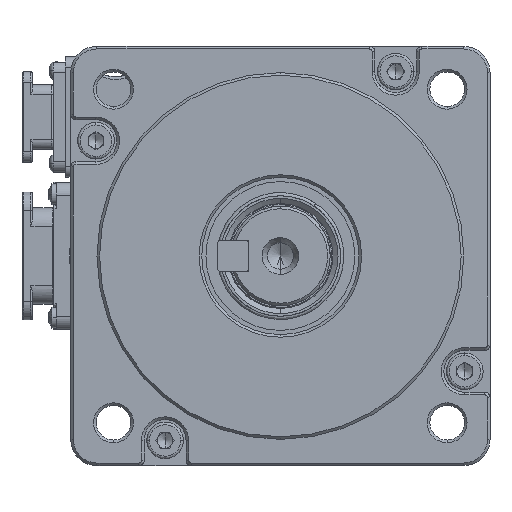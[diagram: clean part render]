
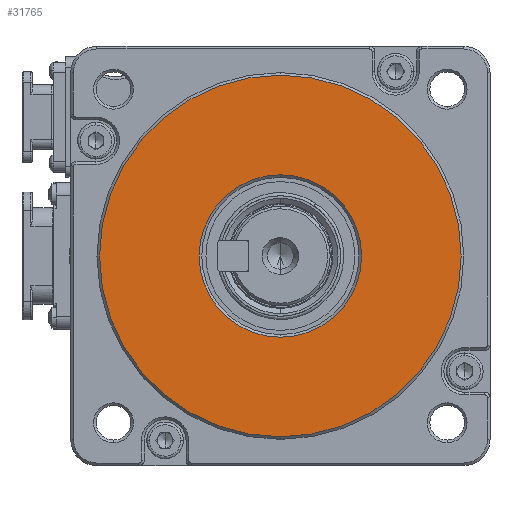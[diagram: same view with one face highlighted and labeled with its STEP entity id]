
A CAD part, left-side view. The second image highlights one B-rep face of the part: STEP entity #31765.
In plain terms, the highlighted planar face has unit normal (-1, 0, 0).
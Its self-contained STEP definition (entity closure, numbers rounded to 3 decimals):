
#2418 = AXIS2_PLACEMENT_3D ( 'NONE', #71850, #107150, #5676 ) ;
#5676 = DIRECTION ( 'NONE',  ( 0., 0., -1. ) ) ;
#5739 = ORIENTED_EDGE ( 'NONE', *, *, #19466, .T. ) ;
#10651 = FACE_OUTER_BOUND ( 'NONE', #23754, .T. ) ;
#11459 = DIRECTION ( 'NONE',  ( 1., 0., 0. ) ) ;
#11888 = CARTESIAN_POINT ( 'NONE',  ( -68.078, 0.916, 130.669 ) ) ;
#11993 = CARTESIAN_POINT ( 'NONE',  ( -68.078, 0.916, 180.669 ) ) ;
#12311 = EDGE_CURVE ( 'NONE', #59376, #46456, #44220, .T. ) ;
#15903 = DIRECTION ( 'NONE',  ( 0., 0., -1. ) ) ;
#19466 = EDGE_CURVE ( 'NONE', #28553, #60050, #24107, .T. ) ;
#20279 = DIRECTION ( 'NONE',  ( 0., 0., 1. ) ) ;
#21116 = FACE_BOUND ( 'NONE', #95276, .T. ) ;
#23012 = DIRECTION ( 'NONE',  ( 1., 0., 0. ) ) ;
#23754 = EDGE_LOOP ( 'NONE', ( #82132, #69776 ) ) ;
#24107 = CIRCLE ( 'NONE', #75075, 15.5 ) ;
#27749 = DIRECTION ( 'NONE',  ( -1., 0., 0. ) ) ;
#28553 = VERTEX_POINT ( 'NONE', #11993 ) ;
#31765 = ADVANCED_FACE ( 'NONE', ( #10651, #21116 ), #77922, .T. ) ;
#32483 = EDGE_CURVE ( 'NONE', #46456, #59376, #102791, .T. ) ;
#38115 = EDGE_CURVE ( 'NONE', #60050, #28553, #71768, .T. ) ;
#44220 = CIRCLE ( 'NONE', #95293, 34.5 ) ;
#46456 = VERTEX_POINT ( 'NONE', #11888 ) ;
#47142 = AXIS2_PLACEMENT_3D ( 'NONE', #100166, #23012, #83626 ) ;
#49481 = DIRECTION ( 'NONE',  ( 1., 0., 0. ) ) ;
#49983 = ORIENTED_EDGE ( 'NONE', *, *, #38115, .T. ) ;
#59376 = VERTEX_POINT ( 'NONE', #73671 ) ;
#60050 = VERTEX_POINT ( 'NONE', #103370 ) ;
#61384 = DIRECTION ( 'NONE',  ( 0., 0., 1. ) ) ;
#69776 = ORIENTED_EDGE ( 'NONE', *, *, #12311, .F. ) ;
#71768 = CIRCLE ( 'NONE', #47142, 15.5 ) ;
#71850 = CARTESIAN_POINT ( 'NONE',  ( -68.078, 0.916, 165.169 ) ) ;
#73671 = CARTESIAN_POINT ( 'NONE',  ( -68.078, 0.916, 199.669 ) ) ;
#75075 = AXIS2_PLACEMENT_3D ( 'NONE', #86999, #11459, #20279 ) ;
#77922 = PLANE ( 'NONE',  #104622 ) ;
#82132 = ORIENTED_EDGE ( 'NONE', *, *, #32483, .F. ) ;
#83626 = DIRECTION ( 'NONE',  ( 0., 0., 1. ) ) ;
#86999 = CARTESIAN_POINT ( 'NONE',  ( -68.078, 0.916, 165.169 ) ) ;
#91413 = CARTESIAN_POINT ( 'NONE',  ( -68.078, 0.916, 165.169 ) ) ;
#95276 = EDGE_LOOP ( 'NONE', ( #5739, #49983 ) ) ;
#95293 = AXIS2_PLACEMENT_3D ( 'NONE', #91413, #49481, #15903 ) ;
#100166 = CARTESIAN_POINT ( 'NONE',  ( -68.078, 0.916, 165.169 ) ) ;
#102791 = CIRCLE ( 'NONE', #2418, 34.5 ) ;
#103290 = CARTESIAN_POINT ( 'NONE',  ( -68.078, 0.916, 165.169 ) ) ;
#103370 = CARTESIAN_POINT ( 'NONE',  ( -68.078, 0.916, 149.669 ) ) ;
#104622 = AXIS2_PLACEMENT_3D ( 'NONE', #103290, #27749, #61384 ) ;
#107150 = DIRECTION ( 'NONE',  ( 1., 0., 0. ) ) ;
